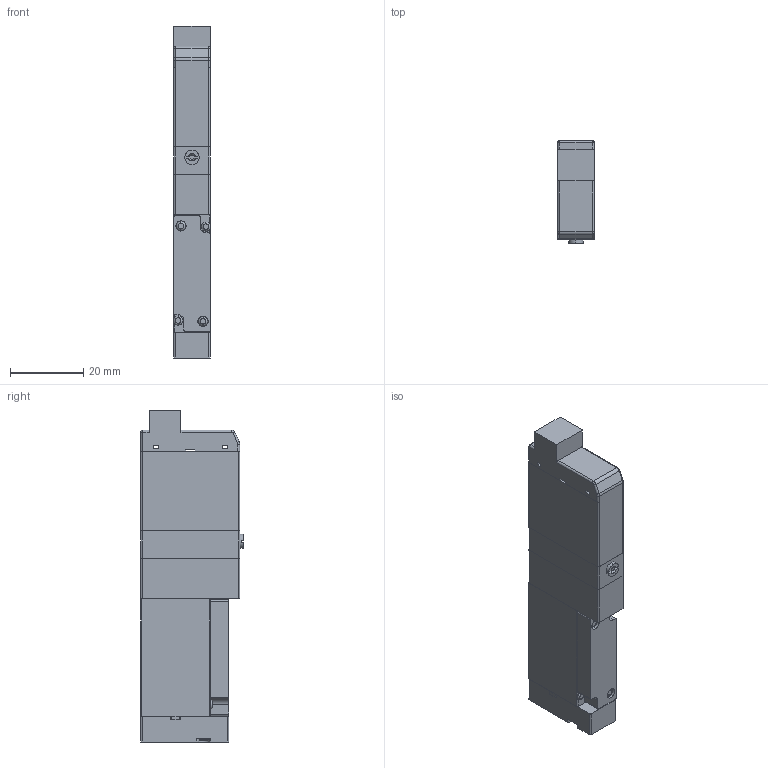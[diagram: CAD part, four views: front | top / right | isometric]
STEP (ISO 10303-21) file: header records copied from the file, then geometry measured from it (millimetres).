
FILE_DESCRIPTION( (''), '2;1');
FILE_NAME ('CVICAD02.13484.F10T0-A1-PN_5614.stp','2020-09-01T14:09:20',(''),(''),'spGate 12.6.6','','');
FILE_SCHEMA (('AUTOMOTIVE_DESIGN'));
Length unit declared in the file: millimetre
Products named in the file (7): Assembly; F10T_Body; F10_Adptor; F_3PortBody; F10_Cap; F_Connector-PN; F10_A1
Assembly tree (6 placements, depth 2):
  Assembly
    F10T_Body
    F10_Adptor
    F_3PortBody
    F10_Cap
    F_Connector-PN
    F10_A1
Bounding box: 10.2 x 28 x 90.5 mm (x, y, z)
Volume: 21744 mm3; surface area: 9967.8 mm2
Topology: 6 solids, 6 shells, 202 faces, 502 edges, 326 vertices
Faces by surface type: plane 101, cylinder 77, bspline 22, sphere 2
Entity records: 10584 total; most frequent: CARTESIAN_POINT 1505, DIRECTION 1041, ORIENTED_EDGE 1000, COLOUR_RGB 708, PRESENTATION_STYLE_ASSIGNMENT 708, STYLED_ITEM 708, EDGE_CURVE 500, DRAUGHTING_PRE_DEFINED_CURVE_FONT 500
